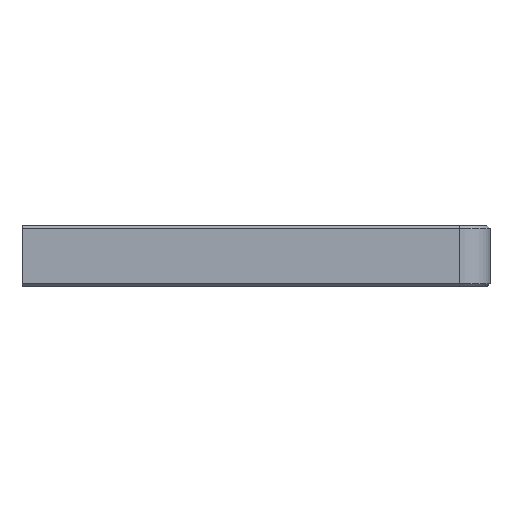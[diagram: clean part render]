
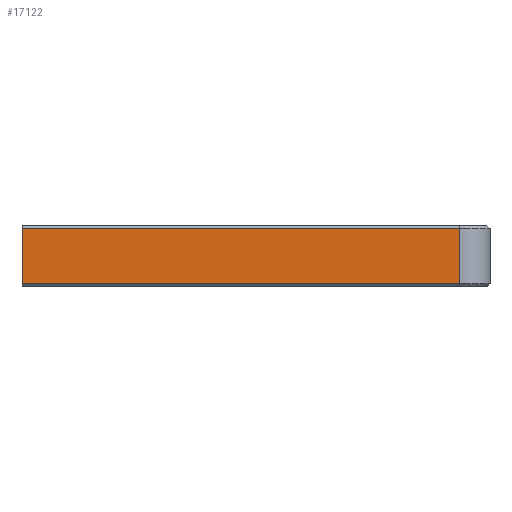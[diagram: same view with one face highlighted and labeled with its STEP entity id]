
A CAD part, front view. The second image highlights one B-rep face of the part: STEP entity #17122.
In plain terms, the highlighted planar face has unit normal (0, -1, 0).
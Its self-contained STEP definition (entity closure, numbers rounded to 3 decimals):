
#1614 = PLANE('',#1615);
#1615 = AXIS2_PLACEMENT_3D('',#1616,#1617,#1618);
#1616 = CARTESIAN_POINT('',(151.925,-263.265,-5.));
#1617 = DIRECTION('',(-1.,0.,0.));
#1618 = DIRECTION('',(0.,1.,0.));
#1641 = PLANE('',#1642);
#1642 = AXIS2_PLACEMENT_3D('',#1643,#1644,#1645);
#1643 = CARTESIAN_POINT('',(293.6,0.4,0.4));
#1644 = DIRECTION('',(0.,-0.707,-0.707));
#1645 = DIRECTION('',(-1.,-0.,0.));
#1828 = CYLINDRICAL_SURFACE('',#1829,10.);
#1829 = AXIS2_PLACEMENT_3D('',#1830,#1831,#1832);
#1830 = CARTESIAN_POINT('',(293.6,10.,0.));
#1831 = DIRECTION('',(-0.,-0.,-1.));
#1832 = DIRECTION('',(1.,0.,0.));
#2117 = PLANE('',#2118);
#2118 = AXIS2_PLACEMENT_3D('',#2119,#2120,#2121);
#2119 = CARTESIAN_POINT('',(293.6,0.5,19.247));
#2120 = DIRECTION('',(0.,0.707,-0.707));
#2121 = DIRECTION('',(-1.,0.,-0.));
#8894 = VERTEX_POINT('',#8895);
#8895 = CARTESIAN_POINT('',(151.925,0.,18.747));
#8997 = VERTEX_POINT('',#8998);
#8998 = CARTESIAN_POINT('',(151.925,0.,0.8));
#9017 = EDGE_CURVE('',#8894,#8997,#9018,.T.);
#9018 = SURFACE_CURVE('',#9019,(#9023,#9029),.PCURVE_S1.);
#9019 = LINE('',#9020,#9021);
#9020 = CARTESIAN_POINT('',(151.925,0.,-2.5));
#9021 = VECTOR('',#9022,1.);
#9022 = DIRECTION('',(0.,0.,-1.));
#9023 = PCURVE('',#1614,#9024);
#9024 = DEFINITIONAL_REPRESENTATION('',(#9025),#9028);
#9025 = B_SPLINE_CURVE_WITH_KNOTS('',1,(#9026,#9027),.UNSPECIFIED.,.F.,
  .F.,(2,2),(-21.247,-3.3),.PIECEWISE_BEZIER_KNOTS.);
#9026 = CARTESIAN_POINT('',(263.265,-23.747));
#9027 = CARTESIAN_POINT('',(263.265,-5.8));
#9028 = ( GEOMETRIC_REPRESENTATION_CONTEXT(2) 
PARAMETRIC_REPRESENTATION_CONTEXT() REPRESENTATION_CONTEXT('2D SPACE',''
  ) );
#9029 = PCURVE('',#9030,#9035);
#9030 = PLANE('',#9031);
#9031 = AXIS2_PLACEMENT_3D('',#9032,#9033,#9034);
#9032 = CARTESIAN_POINT('',(10.,0.,0.));
#9033 = DIRECTION('',(0.,1.,0.));
#9034 = DIRECTION('',(1.,0.,0.));
#9035 = DEFINITIONAL_REPRESENTATION('',(#9036),#9039);
#9036 = B_SPLINE_CURVE_WITH_KNOTS('',1,(#9037,#9038),.UNSPECIFIED.,.F.,
  .F.,(2,2),(-21.247,-3.3),.PIECEWISE_BEZIER_KNOTS.);
#9037 = CARTESIAN_POINT('',(141.925,-18.747));
#9038 = CARTESIAN_POINT('',(141.925,-0.8));
#9039 = ( GEOMETRIC_REPRESENTATION_CONTEXT(2) 
PARAMETRIC_REPRESENTATION_CONTEXT() REPRESENTATION_CONTEXT('2D SPACE',''
  ) );
#9440 = VERTEX_POINT('',#9441);
#9441 = CARTESIAN_POINT('',(293.6,0.,0.8));
#9487 = EDGE_CURVE('',#9440,#8997,#9488,.T.);
#9488 = SURFACE_CURVE('',#9489,(#9493,#9500),.PCURVE_S1.);
#9489 = LINE('',#9490,#9491);
#9490 = CARTESIAN_POINT('',(293.6,0.,0.8));
#9491 = VECTOR('',#9492,1.);
#9492 = DIRECTION('',(-1.,-0.,-0.));
#9493 = PCURVE('',#1641,#9494);
#9494 = DEFINITIONAL_REPRESENTATION('',(#9495),#9499);
#9495 = LINE('',#9496,#9497);
#9496 = CARTESIAN_POINT('',(0.,-0.566));
#9497 = VECTOR('',#9498,1.);
#9498 = DIRECTION('',(1.,0.));
#9499 = ( GEOMETRIC_REPRESENTATION_CONTEXT(2) 
PARAMETRIC_REPRESENTATION_CONTEXT() REPRESENTATION_CONTEXT('2D SPACE',''
  ) );
#9500 = PCURVE('',#9030,#9501);
#9501 = DEFINITIONAL_REPRESENTATION('',(#9502),#9506);
#9502 = LINE('',#9503,#9504);
#9503 = CARTESIAN_POINT('',(283.6,-0.8));
#9504 = VECTOR('',#9505,1.);
#9505 = DIRECTION('',(-1.,0.));
#9506 = ( GEOMETRIC_REPRESENTATION_CONTEXT(2) 
PARAMETRIC_REPRESENTATION_CONTEXT() REPRESENTATION_CONTEXT('2D SPACE',''
  ) );
#9513 = EDGE_CURVE('',#9440,#9514,#9516,.T.);
#9514 = VERTEX_POINT('',#9515);
#9515 = CARTESIAN_POINT('',(293.6,0.,18.747));
#9516 = SURFACE_CURVE('',#9517,(#9521,#9528),.PCURVE_S1.);
#9517 = LINE('',#9518,#9519);
#9518 = CARTESIAN_POINT('',(293.6,0.,0.));
#9519 = VECTOR('',#9520,1.);
#9520 = DIRECTION('',(0.,0.,1.));
#9521 = PCURVE('',#1828,#9522);
#9522 = DEFINITIONAL_REPRESENTATION('',(#9523),#9527);
#9523 = LINE('',#9524,#9525);
#9524 = CARTESIAN_POINT('',(-4.712,0.));
#9525 = VECTOR('',#9526,1.);
#9526 = DIRECTION('',(-0.,-1.));
#9527 = ( GEOMETRIC_REPRESENTATION_CONTEXT(2) 
PARAMETRIC_REPRESENTATION_CONTEXT() REPRESENTATION_CONTEXT('2D SPACE',''
  ) );
#9528 = PCURVE('',#9030,#9529);
#9529 = DEFINITIONAL_REPRESENTATION('',(#9530),#9534);
#9530 = LINE('',#9531,#9532);
#9531 = CARTESIAN_POINT('',(283.6,0.));
#9532 = VECTOR('',#9533,1.);
#9533 = DIRECTION('',(0.,-1.));
#9534 = ( GEOMETRIC_REPRESENTATION_CONTEXT(2) 
PARAMETRIC_REPRESENTATION_CONTEXT() REPRESENTATION_CONTEXT('2D SPACE',''
  ) );
#9589 = EDGE_CURVE('',#9514,#8894,#9590,.T.);
#9590 = SURFACE_CURVE('',#9591,(#9595,#9602),.PCURVE_S1.);
#9591 = LINE('',#9592,#9593);
#9592 = CARTESIAN_POINT('',(293.6,0.,18.747));
#9593 = VECTOR('',#9594,1.);
#9594 = DIRECTION('',(-1.,-0.,-0.));
#9595 = PCURVE('',#2117,#9596);
#9596 = DEFINITIONAL_REPRESENTATION('',(#9597),#9601);
#9597 = LINE('',#9598,#9599);
#9598 = CARTESIAN_POINT('',(0.,-0.707));
#9599 = VECTOR('',#9600,1.);
#9600 = DIRECTION('',(1.,0.));
#9601 = ( GEOMETRIC_REPRESENTATION_CONTEXT(2) 
PARAMETRIC_REPRESENTATION_CONTEXT() REPRESENTATION_CONTEXT('2D SPACE',''
  ) );
#9602 = PCURVE('',#9030,#9603);
#9603 = DEFINITIONAL_REPRESENTATION('',(#9604),#9608);
#9604 = LINE('',#9605,#9606);
#9605 = CARTESIAN_POINT('',(283.6,-18.747));
#9606 = VECTOR('',#9607,1.);
#9607 = DIRECTION('',(-1.,0.));
#9608 = ( GEOMETRIC_REPRESENTATION_CONTEXT(2) 
PARAMETRIC_REPRESENTATION_CONTEXT() REPRESENTATION_CONTEXT('2D SPACE',''
  ) );
#17122 = ADVANCED_FACE('',(#17123),#9030,.F.);
#17123 = FACE_BOUND('',#17124,.F.);
#17124 = EDGE_LOOP('',(#17125,#17126,#17127,#17128));
#17125 = ORIENTED_EDGE('',*,*,#9487,.T.);
#17126 = ORIENTED_EDGE('',*,*,#9017,.F.);
#17127 = ORIENTED_EDGE('',*,*,#9589,.F.);
#17128 = ORIENTED_EDGE('',*,*,#9513,.F.);
